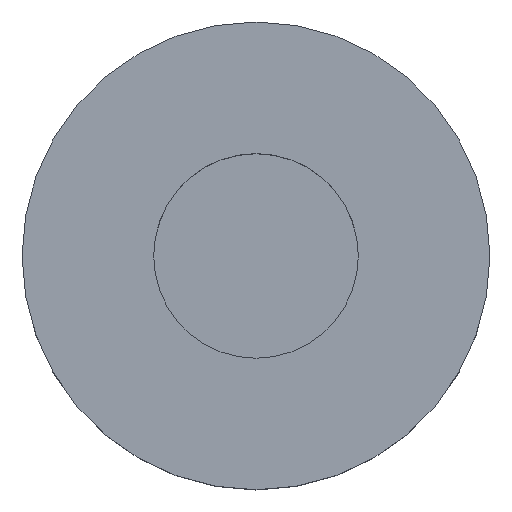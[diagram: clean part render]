
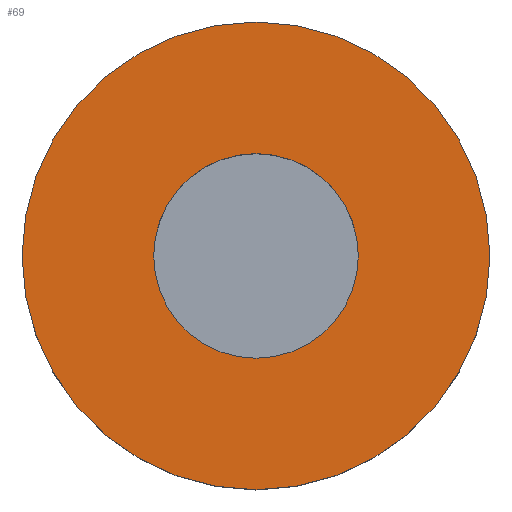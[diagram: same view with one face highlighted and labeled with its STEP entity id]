
A CAD part, top view. The second image highlights one B-rep face of the part: STEP entity #69.
In plain terms, the highlighted planar face has unit normal (0, 0, 1).
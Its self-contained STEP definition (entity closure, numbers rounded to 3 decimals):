
#24 = VERTEX_POINT('',#25);
#25 = CARTESIAN_POINT('',(-187.45,-68.5,11.45));
#31 = EDGE_CURVE('',#24,#24,#32,.T.);
#32 = CIRCLE('',#33,4.8);
#33 = AXIS2_PLACEMENT_3D('',#34,#35,#36);
#34 = CARTESIAN_POINT('',(-192.25,-68.5,11.45));
#35 = DIRECTION('',(0.,0.,1.));
#36 = DIRECTION('',(1.,0.,-0.));
#69 = ADVANCED_FACE('',(#70,#73),#84,.T.);
#70 = FACE_BOUND('',#71,.T.);
#71 = EDGE_LOOP('',(#72));
#72 = ORIENTED_EDGE('',*,*,#31,.T.);
#73 = FACE_BOUND('',#74,.T.);
#74 = EDGE_LOOP('',(#75));
#75 = ORIENTED_EDGE('',*,*,#76,.F.);
#76 = EDGE_CURVE('',#77,#77,#79,.T.);
#77 = VERTEX_POINT('',#78);
#78 = CARTESIAN_POINT('',(-190.15,-68.5,11.45));
#79 = CIRCLE('',#80,2.1);
#80 = AXIS2_PLACEMENT_3D('',#81,#82,#83);
#81 = CARTESIAN_POINT('',(-192.25,-68.5,11.45));
#82 = DIRECTION('',(0.,0.,1.));
#83 = DIRECTION('',(1.,0.,-0.));
#84 = PLANE('',#85);
#85 = AXIS2_PLACEMENT_3D('',#86,#87,#88);
#86 = CARTESIAN_POINT('',(-192.25,-68.5,11.45));
#87 = DIRECTION('',(0.,0.,1.));
#88 = DIRECTION('',(1.,0.,-0.));
